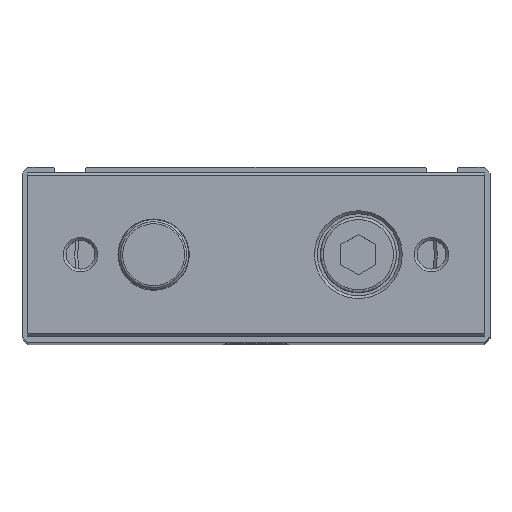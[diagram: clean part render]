
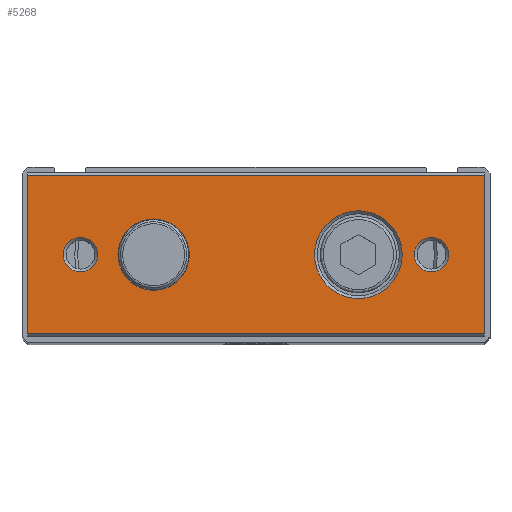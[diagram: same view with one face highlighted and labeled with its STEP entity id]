
A CAD part, top view. The second image highlights one B-rep face of the part: STEP entity #5268.
In plain terms, the highlighted planar face has unit normal (0, 0, 1).
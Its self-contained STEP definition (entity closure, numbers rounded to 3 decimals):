
#3994=CARTESIAN_POINT('',(-39.0,-13.5,236.0));
#3995=VERTEX_POINT('',#3994);
#4002=CARTESIAN_POINT('',(-39.0,13.5,236.0));
#4003=VERTEX_POINT('',#4002);
#4004=CARTESIAN_POINT('',(-39.0,13.5,236.0));
#4005=DIRECTION('',(0.0,-1.0,0.0));
#4006=VECTOR('',#4005,27.);
#4007=LINE('',#4004,#4006);
#4008=EDGE_CURVE('',#4003,#3995,#4007,.T.);
#4122=CARTESIAN_POINT('',(39.0,-13.5,236.0));
#4123=VERTEX_POINT('',#4122);
#4130=CARTESIAN_POINT('',(39.0,-13.5,236.0));
#4131=DIRECTION('',(-1.0,0.0,0.0));
#4132=VECTOR('',#4131,78.0);
#4133=LINE('',#4130,#4132);
#4134=EDGE_CURVE('',#4123,#3995,#4133,.T.);
#4201=CARTESIAN_POINT('',(39.0,13.5,236.0));
#4202=VERTEX_POINT('',#4201);
#4209=CARTESIAN_POINT('',(39.0,-13.5,236.0));
#4210=DIRECTION('',(0.0,1.0,0.0));
#4211=VECTOR('',#4210,27.);
#4212=LINE('',#4209,#4211);
#4213=EDGE_CURVE('',#4123,#4202,#4212,.T.);
#5204=CARTESIAN_POINT('',(-27.042,0.,236.0));
#5205=VERTEX_POINT('',#5204);
#5206=CARTESIAN_POINT('',(-30.0,0.,236.0));
#5207=DIRECTION('',(0.0,0.0,1.0));
#5208=DIRECTION('',(-1.0,0.0,0.0));
#5209=AXIS2_PLACEMENT_3D('',#5206,#5207,#5208);
#5210=CIRCLE('',#5209,2.958);
#5211=EDGE_CURVE('',#5205,#5205,#5210,.T.);
#5216=CARTESIAN_POINT('',(0.0,-14.,236.0));
#5217=DIRECTION('',(0.0,0.0,1.0));
#5218=DIRECTION('',(1.0,0.0,0.0));
#5219=AXIS2_PLACEMENT_3D('',#5216,#5217,#5218);
#5220=PLANE('',#5219);
#5221=ORIENTED_EDGE('',*,*,#4134,.F.);
#5222=ORIENTED_EDGE('',*,*,#4213,.T.);
#5223=CARTESIAN_POINT('',(-39.0,13.5,236.0));
#5224=DIRECTION('',(1.0,0.0,0.0));
#5225=VECTOR('',#5224,78.0);
#5226=LINE('',#5223,#5225);
#5227=EDGE_CURVE('',#4003,#4202,#5226,.T.);
#5228=ORIENTED_EDGE('',*,*,#5227,.F.);
#5229=ORIENTED_EDGE('',*,*,#4008,.T.);
#5230=EDGE_LOOP('',(#5221,#5222,#5228,#5229));
#5231=FACE_OUTER_BOUND('',#5230,.T.);
#5232=CARTESIAN_POINT('',(32.959,0.,236.0));
#5233=VERTEX_POINT('',#5232);
#5234=CARTESIAN_POINT('',(30.0,0.,236.0));
#5235=DIRECTION('',(0.0,0.0,1.0));
#5236=DIRECTION('',(-1.0,0.0,0.0));
#5237=AXIS2_PLACEMENT_3D('',#5234,#5235,#5236);
#5238=CIRCLE('',#5237,2.958);
#5239=EDGE_CURVE('',#5233,#5233,#5238,.T.);
#5240=ORIENTED_EDGE('',*,*,#5239,.F.);
#5241=EDGE_LOOP('',(#5240));
#5242=FACE_BOUND('',#5241,.T.);
#5243=CARTESIAN_POINT('',(-11.4,0.,236.0));
#5244=VERTEX_POINT('',#5243);
#5245=CARTESIAN_POINT('',(-17.5,0.,236.0));
#5246=DIRECTION('',(0.0,0.0,-1.0));
#5247=DIRECTION('',(-1.0,0.0,0.0));
#5248=AXIS2_PLACEMENT_3D('',#5245,#5246,#5247);
#5249=CIRCLE('',#5248,6.1);
#5250=EDGE_CURVE('',#5244,#5244,#5249,.T.);
#5251=ORIENTED_EDGE('',*,*,#5250,.T.);
#5252=EDGE_LOOP('',(#5251));
#5253=FACE_BOUND('',#5252,.T.);
#5254=CARTESIAN_POINT('',(25.0,0.,236.0));
#5255=VERTEX_POINT('',#5254);
#5256=CARTESIAN_POINT('',(17.5,0.,236.0));
#5257=DIRECTION('',(0.0,0.0,1.0));
#5258=DIRECTION('',(-1.0,0.0,0.0));
#5259=AXIS2_PLACEMENT_3D('',#5256,#5257,#5258);
#5260=CIRCLE('',#5259,7.5);
#5261=EDGE_CURVE('',#5255,#5255,#5260,.T.);
#5262=ORIENTED_EDGE('',*,*,#5261,.F.);
#5263=EDGE_LOOP('',(#5262));
#5264=FACE_BOUND('',#5263,.T.);
#5265=ORIENTED_EDGE('',*,*,#5211,.F.);
#5266=EDGE_LOOP('',(#5265));
#5267=FACE_BOUND('',#5266,.T.);
#5268=ADVANCED_FACE('',(#5231,#5242,#5253,#5264,#5267),#5220,.T.);
